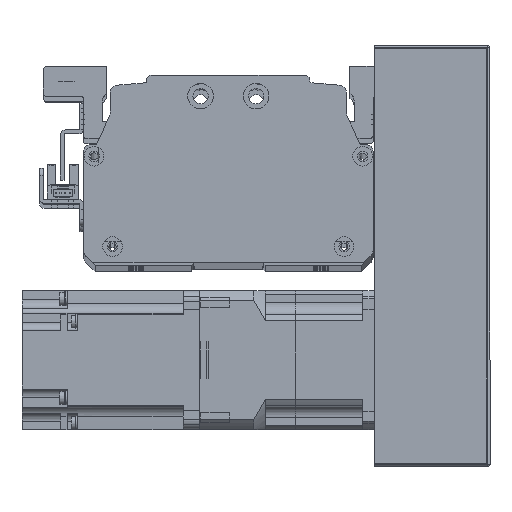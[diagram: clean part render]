
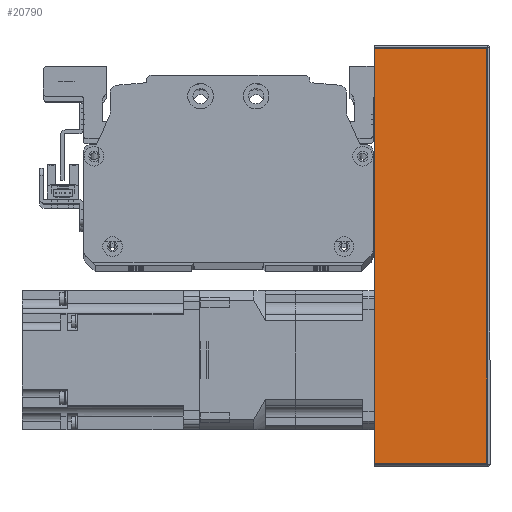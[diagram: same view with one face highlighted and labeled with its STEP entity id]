
A CAD part, top view. The second image highlights one B-rep face of the part: STEP entity #20790.
In plain terms, the highlighted planar face has unit normal (0, 0, 1) as drawn and (0, 1, 0) by its records, which use the part's own axes.
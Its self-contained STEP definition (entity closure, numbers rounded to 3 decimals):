
#568=PLANE('',#22837);
#1775=LINE('',#33879,#3399);
#1789=LINE('',#33924,#3413);
#1793=LINE('',#33946,#3417);
#1812=LINE('',#34009,#3436);
#3399=VECTOR('',#27542,10.);
#3413=VECTOR('',#27590,10.);
#3417=VECTOR('',#27624,10.);
#3436=VECTOR('',#27707,10.);
#5858=FACE_OUTER_BOUND('',#7354,.T.);
#7354=EDGE_LOOP('',(#17340,#17341,#17342,#17343));
#10242=VERTEX_POINT('',#33876);
#10243=VERTEX_POINT('',#33878);
#10256=VERTEX_POINT('',#33919);
#10257=VERTEX_POINT('',#33922);
#12703=EDGE_CURVE('',#10243,#10242,#1775,.T.);
#12727=EDGE_CURVE('',#10256,#10257,#1789,.T.);
#12739=EDGE_CURVE('',#10242,#10256,#1793,.T.);
#12770=EDGE_CURVE('',#10257,#10243,#1812,.T.);
#17340=ORIENTED_EDGE('',*,*,#12727,.T.);
#17341=ORIENTED_EDGE('',*,*,#12770,.T.);
#17342=ORIENTED_EDGE('',*,*,#12703,.T.);
#17343=ORIENTED_EDGE('',*,*,#12739,.T.);
#20790=ADVANCED_FACE('',(#5858),#568,.F.);
#22837=AXIS2_PLACEMENT_3D('',#34008,#27705,#27706);
#27542=DIRECTION('',(-1.,0.,0.));
#27590=DIRECTION('',(1.,0.,0.));
#27624=DIRECTION('',(0.,0.,1.));
#27705=DIRECTION('center_axis',(0.,-1.,0.));
#27706=DIRECTION('ref_axis',(-1.,0.,0.));
#27707=DIRECTION('',(0.,0.,-1.));
#33876=CARTESIAN_POINT('',(-90.,38.,-25.));
#33878=CARTESIAN_POINT('',(90.,38.,-25.));
#33879=CARTESIAN_POINT('',(-91.,38.,-25.));
#33919=CARTESIAN_POINT('',(-90.,38.,24.));
#33922=CARTESIAN_POINT('',(90.,38.,24.));
#33924=CARTESIAN_POINT('',(45.5,38.,24.));
#33946=CARTESIAN_POINT('',(-90.,38.,0.));
#34008=CARTESIAN_POINT('Origin',(91.,38.,0.));
#34009=CARTESIAN_POINT('',(90.,38.,0.));
